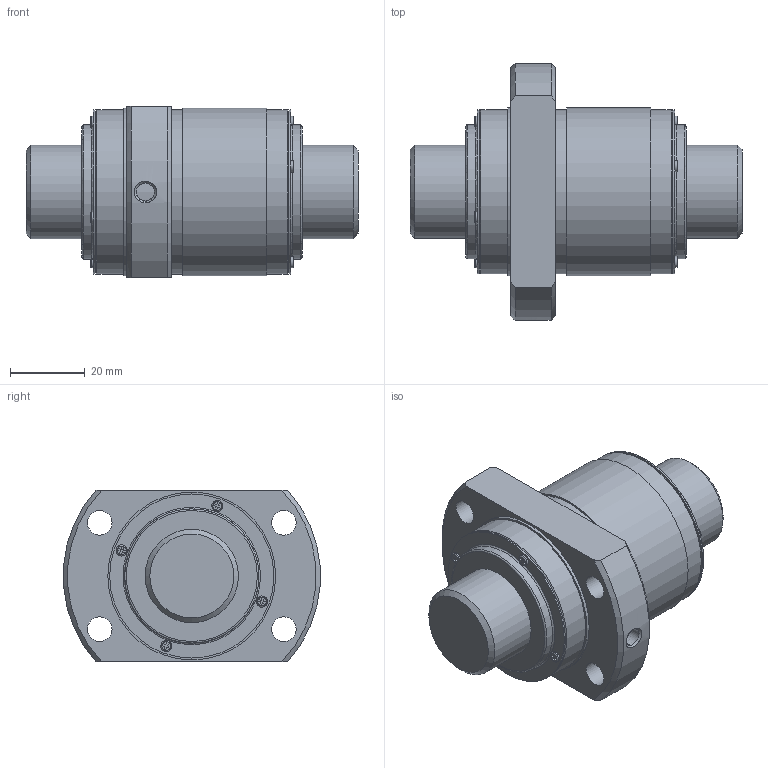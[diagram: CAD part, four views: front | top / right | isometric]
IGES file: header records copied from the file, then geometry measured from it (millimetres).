
Start section: Data from Parasolid IGES Translator 26.0.171, Copyright(c) 2006 Siemens PLM Software. All Rights Reserved.
Global section: file name: WTF2550-2ZZ+89LC7T_000_rev.igs; native system: By Siemens PLM Incorporated; preprocessor: XPlus GENERIC/IGES 26.0.171; author: Noname; organization: Noname; date: 20250611.064011; units: millimetre
Bounding box: 89 x 68.89 x 46 mm (x, y, z)
Surface area: 27400.8 mm2 (no closed solid volume)
Topology: 0 solids, 0 shells, 214 faces, 1086 edges, 1012 vertices
Faces by surface type: extrusion 127, revolution 87
